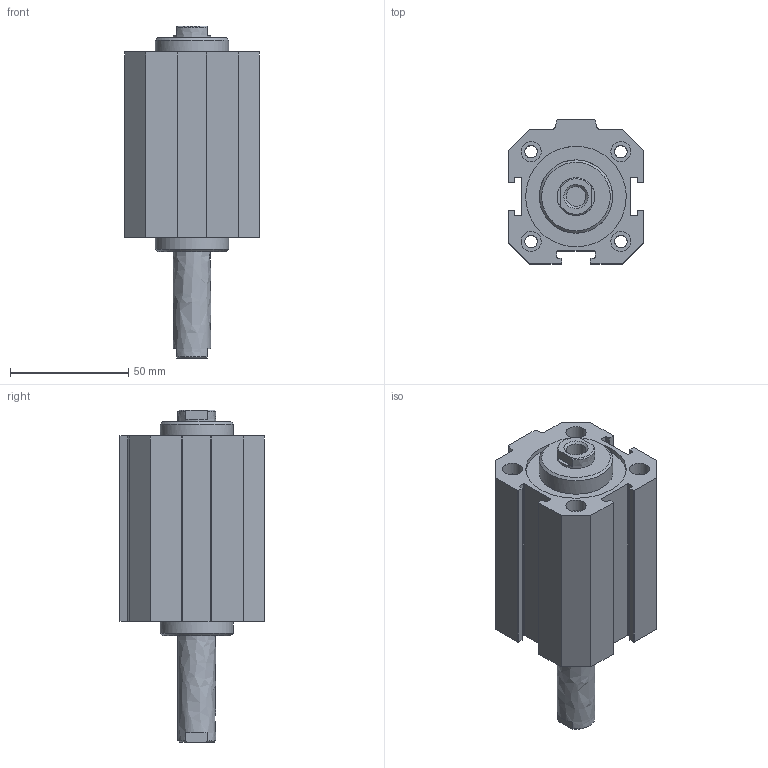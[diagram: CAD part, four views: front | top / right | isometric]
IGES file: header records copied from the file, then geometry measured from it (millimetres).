
Global section: file name: 1514_40_0040; native system: Autodesk Inventor 2014; preprocessor: unknown; author: A. Manieri; date: 20160824.120218; units: millimetre
Bounding box: 57 x 61 x 140.5 mm (x, y, z)
Volume: 192205.1 mm3; surface area: 56697.2 mm2
Topology: 2 solids, 2 shells, 130 faces, 339 edges, 233 vertices
Faces by surface type: bspline 130
